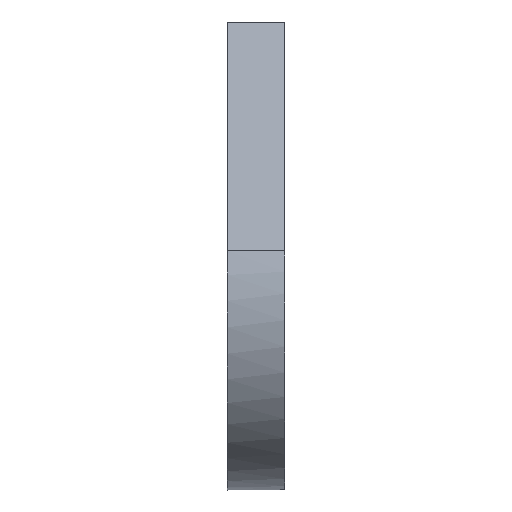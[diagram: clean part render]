
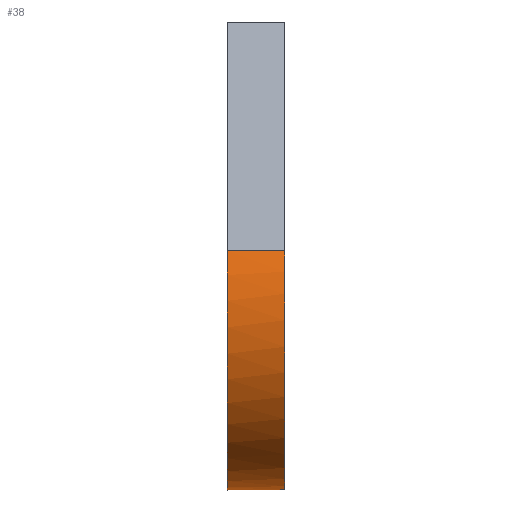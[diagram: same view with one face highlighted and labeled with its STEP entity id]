
A CAD part, top view. The second image highlights one B-rep face of the part: STEP entity #38.
In plain terms, the highlighted free-form (B-spline) face has degree [2, 1] with [5, 2] control points.
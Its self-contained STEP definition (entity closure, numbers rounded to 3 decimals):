
#38=ADVANCED_FACE('',(#55),#620,.T.);
#55=FACE_OUTER_BOUND('',#72,.T.);
#72=EDGE_LOOP('',(#111,#112,#113,#114));
#111=ORIENTED_EDGE('',*,*,#477,.T.);
#112=ORIENTED_EDGE('',*,*,#467,.F.);
#113=ORIENTED_EDGE('',*,*,#478,.T.);
#114=ORIENTED_EDGE('',*,*,#475,.F.);
#185=(
BOUNDED_CURVE()
B_SPLINE_CURVE(2,(#961,#962,#963,#964,#965),.UNSPECIFIED.,.F.,.F.)
B_SPLINE_CURVE_WITH_KNOTS((3,2,3),(30.278,53.204,76.13),
 .UNSPECIFIED.)
CURVE()
GEOMETRIC_REPRESENTATION_ITEM()
RATIONAL_B_SPLINE_CURVE((1.,0.823,1.,0.823,1.))
REPRESENTATION_ITEM('')
);
#186=(
BOUNDED_CURVE()
B_SPLINE_CURVE(2,(#970,#971,#972,#973,#974),.UNSPECIFIED.,.F.,.F.)
B_SPLINE_CURVE_WITH_KNOTS((3,2,3),(-76.13,-53.204,-30.278),
 .UNSPECIFIED.)
CURVE()
GEOMETRIC_REPRESENTATION_ITEM()
RATIONAL_B_SPLINE_CURVE((1.,0.823,1.,0.823,1.))
REPRESENTATION_ITEM('')
);
#207=(
BOUNDED_CURVE()
B_SPLINE_CURVE(2,(#1089,#1090,#1091,#1092,#1093),.UNSPECIFIED.,.F.,.F.)
B_SPLINE_CURVE_WITH_KNOTS((3,2,3),(30.278,53.204,76.13),
 .UNSPECIFIED.)
CURVE()
GEOMETRIC_REPRESENTATION_ITEM()
RATIONAL_B_SPLINE_CURVE((1.,0.823,1.,0.823,1.))
REPRESENTATION_ITEM('')
);
#223=(
BOUNDED_CURVE()
B_SPLINE_CURVE(2,(#1187,#1188,#1189,#1190,#1191),.UNSPECIFIED.,.F.,.F.)
B_SPLINE_CURVE_WITH_KNOTS((3,2,3),(-76.13,-53.204,-30.278),
 .UNSPECIFIED.)
CURVE()
GEOMETRIC_REPRESENTATION_ITEM()
RATIONAL_B_SPLINE_CURVE((1.,0.823,1.,0.823,1.))
REPRESENTATION_ITEM('')
);
#242=PCURVE('',#631,#332);
#252=PCURVE('',#634,#342);
#255=PCURVE('',#620,#345);
#256=PCURVE('',#620,#346);
#257=PCURVE('',#620,#347);
#258=PCURVE('',#620,#348);
#279=PCURVE('',#635,#369);
#298=PCURVE('',#636,#388);
#332=DEFINITIONAL_REPRESENTATION('',(#516),#1308);
#342=DEFINITIONAL_REPRESENTATION('',(#534),#1308);
#345=DEFINITIONAL_REPRESENTATION('',(#538),#1308);
#346=DEFINITIONAL_REPRESENTATION('',(#539),#1308);
#347=DEFINITIONAL_REPRESENTATION('',(#540),#1308);
#348=DEFINITIONAL_REPRESENTATION('',(#541),#1308);
#369=DEFINITIONAL_REPRESENTATION('',(#207),#1308);
#388=DEFINITIONAL_REPRESENTATION('',(#223),#1308);
#422=SURFACE_CURVE('',#515,(#242,#256),.PCURVE_S1.);
#430=SURFACE_CURVE('',#533,(#252,#258),.PCURVE_S1.);
#432=SURFACE_CURVE('',#185,(#255,#279),.PCURVE_S1.);
#433=SURFACE_CURVE('',#186,(#257,#298),.PCURVE_S1.);
#467=EDGE_CURVE('',#593,#590,#422,.T.);
#475=EDGE_CURVE('',#598,#599,#430,.T.);
#477=EDGE_CURVE('',#598,#590,#432,.T.);
#478=EDGE_CURVE('',#593,#599,#433,.T.);
#515=B_SPLINE_CURVE_WITH_KNOTS('',1,(#913,#914),.UNSPECIFIED.,.F.,.F.,(2,
2),(-6.,0.),.UNSPECIFIED.);
#516=B_SPLINE_CURVE_WITH_KNOTS('',1,(#915,#916),.UNSPECIFIED.,.F.,.F.,(2,
2),(-6.,0.),.UNSPECIFIED.);
#533=B_SPLINE_CURVE_WITH_KNOTS('',1,(#951,#952),.UNSPECIFIED.,.F.,.F.,(2,
2),(0.,6.),.UNSPECIFIED.);
#534=B_SPLINE_CURVE_WITH_KNOTS('',1,(#953,#954),.UNSPECIFIED.,.F.,.F.,(2,
2),(0.,6.),.UNSPECIFIED.);
#538=B_SPLINE_CURVE_WITH_KNOTS('',1,(#966,#967),.UNSPECIFIED.,.F.,.F.,(2,
2),(30.278,76.13),.UNSPECIFIED.);
#539=B_SPLINE_CURVE_WITH_KNOTS('',1,(#968,#969),.UNSPECIFIED.,.F.,.F.,(2,
2),(-6.,0.),.UNSPECIFIED.);
#540=B_SPLINE_CURVE_WITH_KNOTS('',1,(#975,#976),.UNSPECIFIED.,.F.,.F.,(2,
2),(-76.13,-30.278),.UNSPECIFIED.);
#541=B_SPLINE_CURVE_WITH_KNOTS('',1,(#977,#978),.UNSPECIFIED.,.F.,.F.,(2,
2),(0.,6.),.UNSPECIFIED.);
#590=VERTEX_POINT('',#871);
#593=VERTEX_POINT('',#874);
#598=VERTEX_POINT('',#879);
#599=VERTEX_POINT('',#880);
#620=(
BOUNDED_SURFACE()
B_SPLINE_SURFACE(2,1,((#679,#680),(#681,#682),(#683,#684),(#685,#686),(#687,
#688)),.UNSPECIFIED.,.F.,.F.,.F.)
B_SPLINE_SURFACE_WITH_KNOTS((3,2,3),(2,2),(30.278,53.204,
76.13),(0.,6.),.UNSPECIFIED.)
GEOMETRIC_REPRESENTATION_ITEM()
RATIONAL_B_SPLINE_SURFACE(((1.,1.),(0.823,0.823),(1.,
1.),(0.823,0.823),(1.,1.)))
REPRESENTATION_ITEM('')
SURFACE()
);
#631=PLANE('',#657);
#634=PLANE('',#660);
#635=PLANE('',#661);
#636=PLANE('',#662);
#657=AXIS2_PLACEMENT_3D('',#675,#666,$);
#660=AXIS2_PLACEMENT_3D('',#678,#669,$);
#661=AXIS2_PLACEMENT_3D('',#779,#670,$);
#662=AXIS2_PLACEMENT_3D('',#780,#671,$);
#666=DIRECTION('',(0.,-0.868,-0.497));
#669=DIRECTION('',(0.,0.317,0.948));
#670=DIRECTION('',(-1.,0.,0.));
#671=DIRECTION('',(1.,0.,0.));
#675=CARTESIAN_POINT('',(-702.,268.508,20.565));
#678=CARTESIAN_POINT('',(-702.,315.,40.));
#679=CARTESIAN_POINT('',(-702.,291.027,48.019));
#680=CARTESIAN_POINT('',(-696.,291.027,48.019));
#681=CARTESIAN_POINT('',(-702.,278.612,52.171));
#682=CARTESIAN_POINT('',(-696.,278.612,52.171));
#683=CARTESIAN_POINT('',(-702.,270.31,42.05));
#684=CARTESIAN_POINT('',(-696.,270.31,42.05));
#685=CARTESIAN_POINT('',(-702.,262.007,31.928));
#686=CARTESIAN_POINT('',(-696.,262.007,31.928));
#687=CARTESIAN_POINT('',(-702.,268.508,20.565));
#688=CARTESIAN_POINT('',(-696.,268.508,20.565));
#779=CARTESIAN_POINT('',(-702.,259.875,-25.25));
#780=CARTESIAN_POINT('',(-696.,259.875,-25.25));
#871=CARTESIAN_POINT('',(-702.,268.508,20.565));
#874=CARTESIAN_POINT('',(-696.,268.508,20.565));
#879=CARTESIAN_POINT('',(-702.,291.027,48.019));
#880=CARTESIAN_POINT('',(-696.,291.027,48.019));
#913=CARTESIAN_POINT('',(-696.,268.508,20.565));
#914=CARTESIAN_POINT('',(-702.,268.508,20.565));
#915=CARTESIAN_POINT('',(-43.278,6.));
#916=CARTESIAN_POINT('',(-43.278,0.));
#951=CARTESIAN_POINT('',(-702.,291.027,48.019));
#952=CARTESIAN_POINT('',(-696.,291.027,48.019));
#953=CARTESIAN_POINT('',(30.278,0.));
#954=CARTESIAN_POINT('',(30.278,6.));
#961=CARTESIAN_POINT('',(-702.,291.027,48.019));
#962=CARTESIAN_POINT('',(-702.,278.612,52.171));
#963=CARTESIAN_POINT('',(-702.,270.31,42.05));
#964=CARTESIAN_POINT('',(-702.,262.007,31.928));
#965=CARTESIAN_POINT('',(-702.,268.508,20.565));
#966=CARTESIAN_POINT('',(30.278,0.));
#967=CARTESIAN_POINT('',(76.13,0.));
#968=CARTESIAN_POINT('',(76.13,6.));
#969=CARTESIAN_POINT('',(76.13,0.));
#970=CARTESIAN_POINT('',(-696.,268.508,20.565));
#971=CARTESIAN_POINT('',(-696.,262.007,31.928));
#972=CARTESIAN_POINT('',(-696.,270.31,42.05));
#973=CARTESIAN_POINT('',(-696.,278.612,52.171));
#974=CARTESIAN_POINT('',(-696.,291.027,48.019));
#975=CARTESIAN_POINT('',(76.13,6.));
#976=CARTESIAN_POINT('',(30.278,6.));
#977=CARTESIAN_POINT('',(30.278,0.));
#978=CARTESIAN_POINT('',(30.278,6.));
#1089=CARTESIAN_POINT('',(18.019,-8.973));
#1090=CARTESIAN_POINT('',(22.171,-21.388));
#1091=CARTESIAN_POINT('',(12.05,-29.69));
#1092=CARTESIAN_POINT('',(1.928,-37.993));
#1093=CARTESIAN_POINT('',(-9.435,-31.492));
#1187=CARTESIAN_POINT('',(-31.492,-9.435));
#1188=CARTESIAN_POINT('',(-37.993,1.928));
#1189=CARTESIAN_POINT('',(-29.69,12.05));
#1190=CARTESIAN_POINT('',(-21.388,22.171));
#1191=CARTESIAN_POINT('',(-8.973,18.019));
#1308=(
GEOMETRIC_REPRESENTATION_CONTEXT(2)
PARAMETRIC_REPRESENTATION_CONTEXT()
REPRESENTATION_CONTEXT('pspace','')
);
